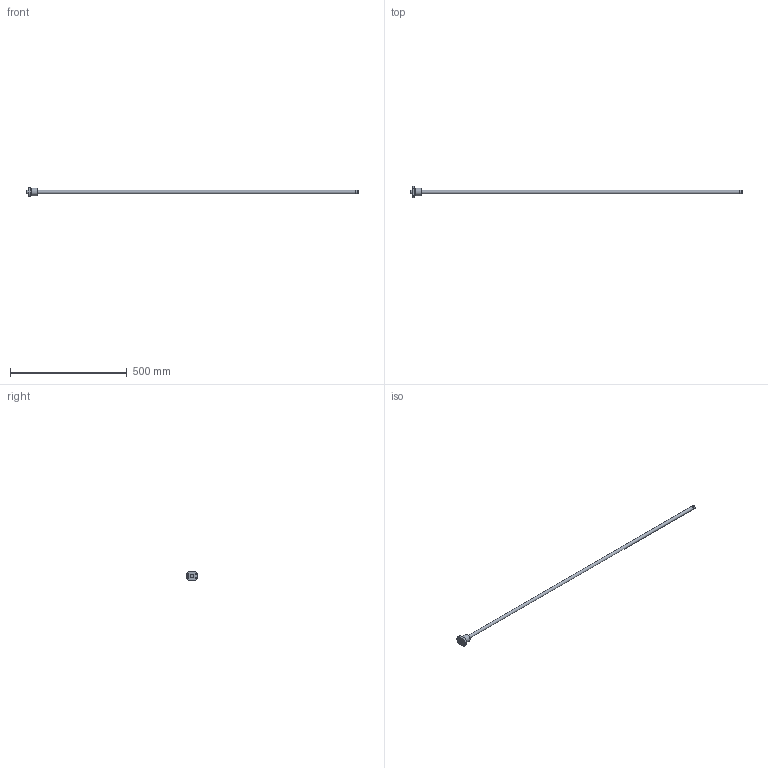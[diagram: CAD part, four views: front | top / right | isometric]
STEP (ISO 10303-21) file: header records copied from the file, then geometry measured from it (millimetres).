
FILE_DESCRIPTION( ( 'STEP AP203' ), ' ' );
FILE_NAME( 'p:/temp/worker_20/2584_100/app_47_12018011810390995442531818fa3fd_000000_00_00_000000/format_0/BTK 1405V-2.6ZZ+1424LC7T_13640.stp', '2018-01-18T09:39:10', ( '' ), ( '' ), ' ', 'PARTsolutions', ' ' );
FILE_SCHEMA( ( 'CONFIG_CONTROL_DESIGN' ) );
Length unit declared in the file: millimetre
Products named in the file (3): BTK 1405V-2.6ZZ+1424LC7T_13640; _BTK 1405V-2.61364 Shaft; _BTK 1405V-2.6ZZ Nut
Assembly tree (2 placements, depth 2):
  BTK 1405V-2.6ZZ+1424LC7T_13640
    _BTK 1405V-2.61364 Shaft
    _BTK 1405V-2.6ZZ Nut
Bounding box: 1424 x 50 x 38 mm (x, y, z)
Volume: 251942.5 mm3; surface area: 73411.1 mm2
Topology: 2 solids, 2 shells, 39 faces, 84 edges, 55 vertices
Faces by surface type: cylinder 17, plane 14, cone 8
Full cylindrical faces by diameter (mm): 4.5 x4, 4.917 x1, 11.2 x2, 14 x4, 16.8 x2, 28.8 x1, 32 x1
Entity records: 1198 total; most frequent: CARTESIAN_POINT 299, DIRECTION 174, ORIENTED_EDGE 122, AXIS2_PLACEMENT_3D 82, EDGE_LOOP 76, EDGE_CURVE 61, FACE_OUTER_BOUND 54, VERTEX_POINT 51
